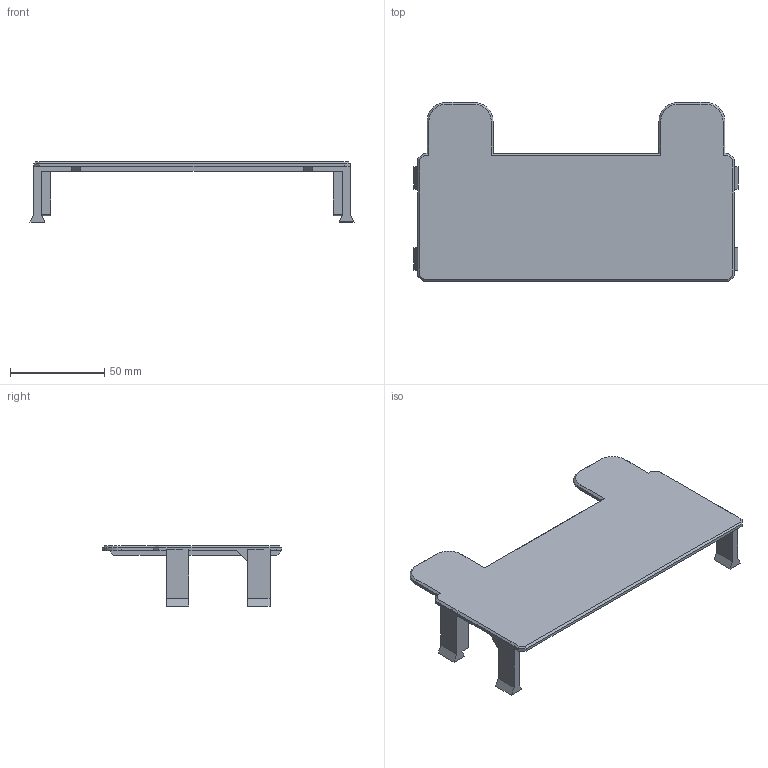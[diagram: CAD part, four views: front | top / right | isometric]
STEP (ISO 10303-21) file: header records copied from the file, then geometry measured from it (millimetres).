
FILE_DESCRIPTION(('HOOPS Exchange Step'),'2;1');
FILE_NAME('/private/var/mobile/Containers/Data/Application/FEB09317-4D42-4244-84D5-4744026CA7E9/tmp/export/temp_export','2021-11-26T22:09:58+01:00',('mobile'),('Shapr3D Limited'),'HOOPS Exchange 2021.1','Shapr3D','Authorized');
FILE_SCHEMA( ('AP203_CONFIGURATION_CONTROLLED_3D_DESIGN_OF_MECHANICAL_PARTS_AND_ASSEMBLIES_MIM_LF') );
Length unit declared in the file: millimetre
Products named in the file (2): Parts; /private/var/mobile/Containers/Data/Application/FEB09317-4D42-4244-84D5-4744026CA7E9/tmp/2923BB81-C6F1-4651-A319-3CEEE73C4FE8.tmp
Assembly tree (1 placements, depth 2):
  /private/var/mobile/Containers/Data/Application/FEB09317-4D42-4244-84D5-4744026CA7E9/tmp/2923BB81-C6F1-4651-A319-3CEEE73C4FE8.tmp
    Parts
Bounding box: 171.9 x 95 x 31.9 mm (x, y, z)
Volume: 44425.4 mm3; surface area: 34297.8 mm2
Topology: 1 solids, 1 shells, 127 faces, 348 edges, 224 vertices
Faces by surface type: plane 115, cylinder 8, cone 4
Entity records: 3981 total; most frequent: CARTESIAN_POINT 702, ORIENTED_EDGE 696, DIRECTION 632, EDGE_CURVE 348, VECTOR 324, LINE 324, VERTEX_POINT 224, AXIS2_PLACEMENT_3D 154
